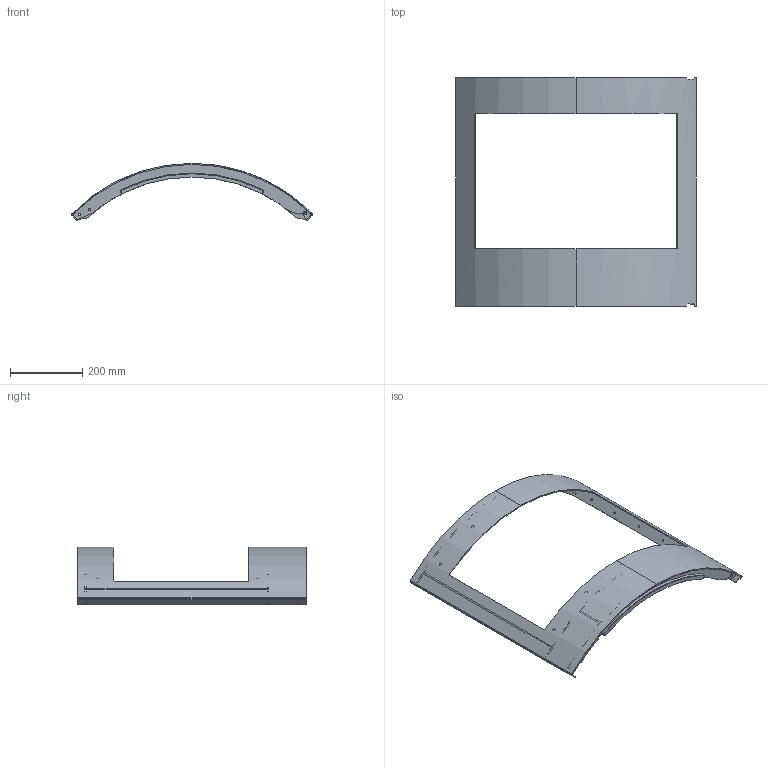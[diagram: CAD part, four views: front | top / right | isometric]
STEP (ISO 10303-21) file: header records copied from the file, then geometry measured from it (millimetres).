
FILE_DESCRIPTION (( 'STEP AP203' ), '1' );
FILE_NAME ('Vrata J3 KOMPLET.STEP', '2020-01-21T11:49:52', ( 'Antonio' ), ( '' ), 'SwSTEP 2.0', 'SolidWorks 2013', '' );
FILE_SCHEMA (( 'CONFIG_CONTROL_DESIGN' ));
Length unit declared in the file: millimetre
Products named in the file (14): 193-00-011_Segment_vrata_donji_Segment vrata donji; 049-34-000_Kanal_brtve_hor_PODSKLOP_Kanal brtve hor PODSKLOP; 049-00-108_Kanal_brtve_donji_1_Kanal brtve donji 1; Vrata J3 KOMPLET; 049-00-109_Kanal_brtve_donji_2_Kanal brtve donji 2; 049-35-000_Kanal_brtve_PODSKLOP_Kanal brtve PODSKLOP; 049-00-099_Segment_vrata_srednji_Segment vrata srednji; 049-33-000_Segment_vrata_donji_PODSKLOP_Segment vrata donji J3 PODSKLOP; 049-00-101_Letva_vrata_x2_Letva vrata x2; 193-00-009_Vrata_J_nova_Vrata J nova; 193-00-010_Segment_vrata_gornji_Segment vrata gornji; 049-00-102_Letva_vrata_mala_x2_Letva vrata mala x2; 10000650 Matica za punktiranje fi7.1x10 M5 Hruschka_Matica za punktiranje fi7.1x10 M5; 049-00-104_Kanal_brtve_vertikalni_mali_x2_Kanal brtve vertikalni mali x2
Assembly tree (24 placements, depth 4):
  Vrata J3 KOMPLET
    049-00-099_Segment_vrata_srednji_Segment vrata srednji
    049-00-101_Letva_vrata_x2_Letva vrata x2  x2
    193-00-009_Vrata_J_nova_Vrata J nova
    193-00-010_Segment_vrata_gornji_Segment vrata gornji
    10000650 Matica za punktiranje fi7.1x10 M5 Hruschka_Matica za punktiranje fi7.1x10 M5  x10
    049-33-000_Segment_vrata_donji_PODSKLOP_Segment vrata donji J3 PODSKLOP
      193-00-011_Segment_vrata_donji_Segment vrata donji
      049-35-000_Kanal_brtve_PODSKLOP_Kanal brtve PODSKLOP
        049-00-108_Kanal_brtve_donji_1_Kanal brtve donji 1
        049-00-109_Kanal_brtve_donji_2_Kanal brtve donji 2
    049-34-000_Kanal_brtve_hor_PODSKLOP_Kanal brtve hor PODSKLOP  x2
      049-00-102_Letva_vrata_mala_x2_Letva vrata mala x2
      049-00-104_Kanal_brtve_vertikalni_mali_x2_Kanal brtve vertikalni mali x2
Bounding box: 668.06 x 634 x 158.96 mm (x, y, z)
Volume: 1290849.3 mm3; surface area: 847192 mm2
Topology: 22 solids, 22 shells, 499 faces, 1241 edges, 784 vertices
Faces by surface type: plane 288, cylinder 183, cone 20, bspline 8
Entity records: 12689 total; most frequent: CARTESIAN_POINT 2272, DIRECTION 1825, ORIENTED_EDGE 1790, EDGE_CURVE 895, LINE 625, VECTOR 625, AXIS2_PLACEMENT_3D 600, VERTEX_POINT 575
